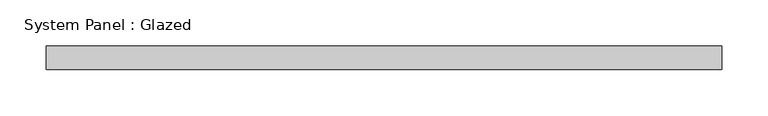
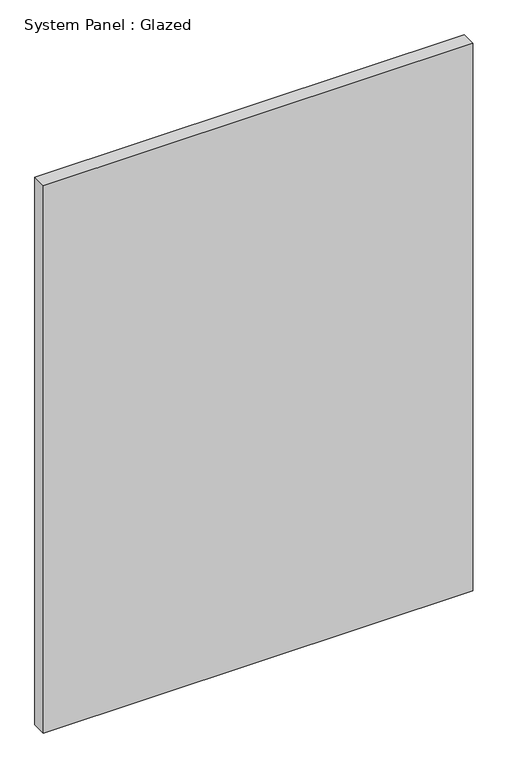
"""IFC4 building model written with IfcOpenShell, lengths in millimetres: plate geometry, System Panel : Glazed."""

from ifc_helpers import new_model, si_unit, origin, origin_with_axes, place, context, project, spatial, polyline, outline, extrude, source, transform, mapped, element, save


def system_panel_glazed_3c1a9072(model_context):
    return source(origin(), model_context, "Body", "SweptSolid", [
        extrude(outline(polyline([(363.0446741, 24.5), (-363.0446741, 24.5), (-363.0446741, 49.5), (363.0446741, 49.5), (363.0446741, 24.5)])), origin_with_axes(), (0.0, 0.0, 1.0), 978.8970931),
    ])


if __name__ == "__main__":
    model = new_model("IFC4")
    model_context = context("Model", 3, world=origin())
    ifc_project = project(units=[si_unit("LENGTHUNIT", "METRE", prefix="MILLI")], contexts=[model_context])
    site = spatial("IfcSite", under=ifc_project)
    building = spatial("IfcBuilding", under=site)
    placement = place(None, origin())
    system_panel_glazed_shape = system_panel_glazed_3c1a9072(model_context)
    element("IfcPlate", 1, ObjectType="System Panel : Glazed", at=placement, inside=building, context=model_context, shape_type="MappedRepresentation", body=[
        mapped(system_panel_glazed_shape, transform((0.0, 0.0, 0.0), x_axis=(1.0, 0.0, 0.0), y_axis=(0.0, 1.0, 0.0), z_axis=(0.0, 0.0, 1.0))),
    ])
    save(model, "model.ifc")
